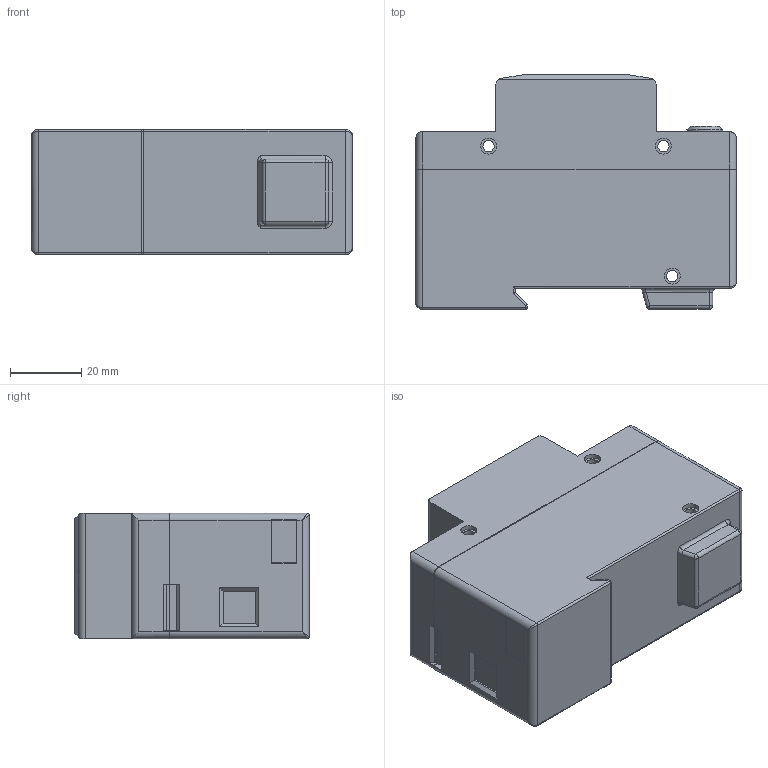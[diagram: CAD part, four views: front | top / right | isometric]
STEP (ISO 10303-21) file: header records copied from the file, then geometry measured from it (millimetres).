
FILE_DESCRIPTION(/* description */ (''),/* implementation_level */ '2;1');
FILE_NAME(/* name */ 'K:\PROJEKTY ROZPRACOVANÉ\MODELY DO KATALOGU\HI\3D - STEP\HI63.stp',/* time_stamp */ '2020-03-24T16:27:36+01:00',/* author */ ('M Koliska'),/* organization */ (''),/* preprocessor_version */ 'ST-DEVELOPER v18',/* originating_system */ 'Autodesk Inventor 2020',/* authorisation */ '');
FILE_SCHEMA (('AUTOMOTIVE_DESIGN { 1 0 10303 214 3 1 1 }'));
Length unit declared in the file: millimetre
Products named in the file (3): HI63; HI32, 63, 80; DIN 7985 (H) - M6x10-H
Assembly tree (3 placements, depth 2):
  HI63
    HI32, 63, 80
    DIN 7985 (H) - M6x10-H  x2
Bounding box: 90 x 65.8 x 35.2 mm (x, y, z)
Volume: 170712.6 mm3; surface area: 24501.9 mm2
Topology: 3 solids, 3 shells, 295 faces, 763 edges, 491 vertices
Faces by surface type: plane 188, cylinder 56, cone 33, sphere 8, bspline 6, torus 4
Full cylindrical faces by diameter (mm): 3.2 x3, 4.5 x6, 5.5 x2, 6 x2, 7.5 x2, 10 x1
Entity records: 7969 total; most frequent: CARTESIAN_POINT 1564, DIRECTION 1313, ORIENTED_EDGE 1304, EDGE_CURVE 652, LINE 461, VECTOR 461, AXIS2_PLACEMENT_3D 426, VERTEX_POINT 419
